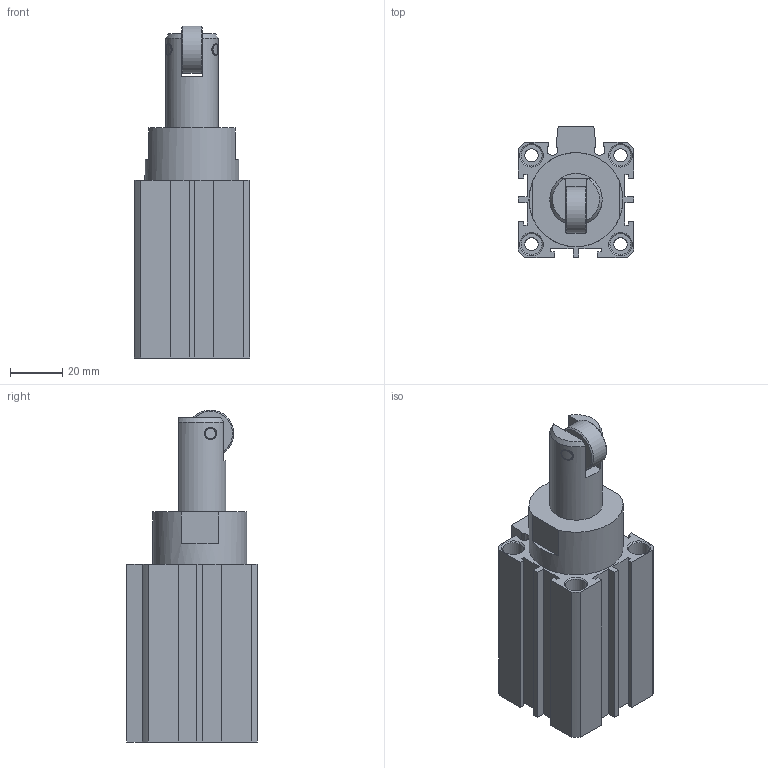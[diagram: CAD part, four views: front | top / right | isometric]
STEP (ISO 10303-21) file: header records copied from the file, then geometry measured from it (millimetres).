
FILE_DESCRIPTION((''),'2;1');
FILE_NAME('I:\3D電子目錄\氣缸\STC\STC\STC32\STC32x20.stp','2007-09-19T15:44:25',('Administrator'),(''),'Autodesk Inventor 11','Autodesk Inventor 11','');
FILE_SCHEMA(('AUTOMOTIVE_DESIGN { 1 0 10303 214 1 1 1 1 }'));
Length unit declared in the file: millimetre
Products named in the file (1): STC32
Bounding box: 44 x 50 x 127 mm (x, y, z)
Volume: 143811.2 mm3; surface area: 33312.9 mm2
Topology: 2 solids, 2 shells, 138 faces, 327 edges, 214 vertices
Faces by surface type: plane 78, cylinder 34, cone 16, bspline 9, torus 1
Full cylindrical faces by diameter (mm): 2.2 x2, 4 x2, 4.2 x2, 5.1 x4, 8 x8, 18 x1, 23 x1, 34 x2, 36 x2
Entity records: 4400 total; most frequent: CARTESIAN_POINT 1364, DIRECTION 612, ORIENTED_EDGE 550, EDGE_CURVE 275, AXIS2_PLACEMENT_3D 219, EDGE_LOOP 214, VERTEX_POINT 205, VECTOR 174
